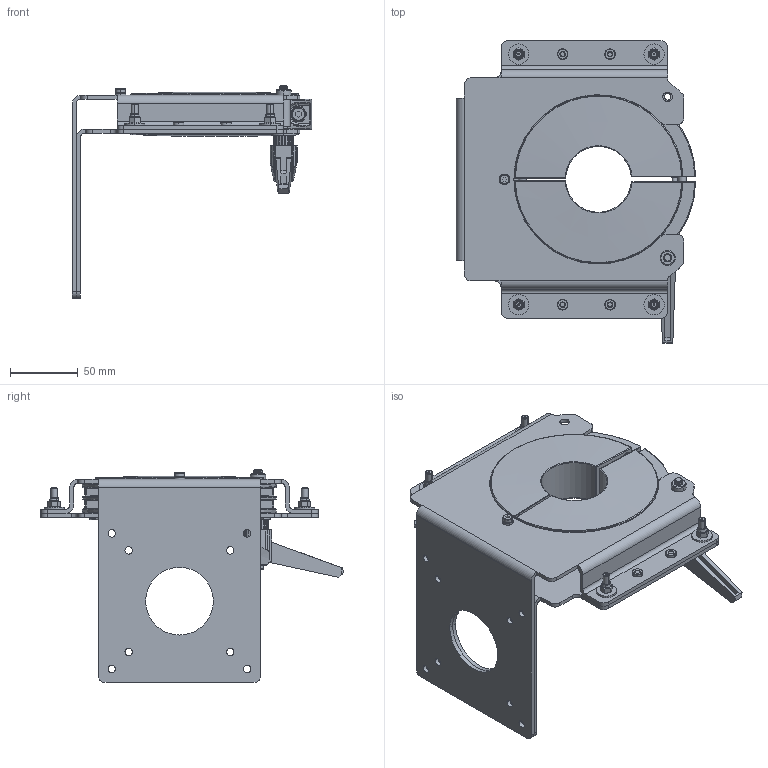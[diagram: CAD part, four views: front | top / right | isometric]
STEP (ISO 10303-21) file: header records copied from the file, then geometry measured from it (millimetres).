
FILE_DESCRIPTION((''),'2;1');
FILE_NAME('9806000140_ASM','2023-03-23T11:53:17',('Stephanie.Hoppe'),(''),'CREO PARAMETRIC BY PTC INC, 2022124','CREO PARAMETRIC BY PTC INC, 2022124','');
FILE_SCHEMA(('AUTOMOTIVE_DESIGN { 1 0 10303 214 1 1 1 1 }'));
Products named in the file (21): 9371086000; 9281908000; 9261635000; 9806000075_ASM; 9514191000; KVT_FH_M5_22; 9514191000_ASM; 9514192000; KVT-EINPRESSMUTTERM4; KVT-EINPRESSMUTTERM6; 9514192000_ASM; 9262009000; 9281801000; 9262024000; 9251143000; 9261384000; 9502370000; 9261367000; 9231837000; 9806000137_ASM; 9806000140_ASM
Assembly tree (36 placements, depth 4):
  9806000140_ASM
    9806000075_ASM
      9371086000  x2
      9281908000  x2
      9261635000  x2
    9806000137_ASM
      9514191000_ASM
        9514191000
        KVT_FH_M5_22  x4
      9514192000_ASM
        9514192000
        KVT-EINPRESSMUTTERM4  x5
        KVT-EINPRESSMUTTERM6
      9262009000  x4
      9281801000  x4
      9262024000
      9251143000
      9261384000
      9502370000
      9261367000
      9231837000
Bounding box: 176.71 x 223.5 x 157.2 mm (x, y, z)
Volume: 498560.2 mm3; surface area: 267469.2 mm2
Topology: 32 solids, 53 shells, 1785 faces, 4171 edges, 2588 vertices
Faces by surface type: cylinder 616, plane 401, bspline 236, cone 222, sphere 160, torus 150
Entity records: 59511 total; most frequent: CARTESIAN_POINT 16600, DIRECTION 5949, ORIENTED_EDGE 4764, PRESENTATION_STYLE_ASSIGNMENT 2826, STYLED_ITEM 2810, CURVE_STYLE 2609, EDGE_CURVE 2394, AXIS2_PLACEMENT_3D 2352
